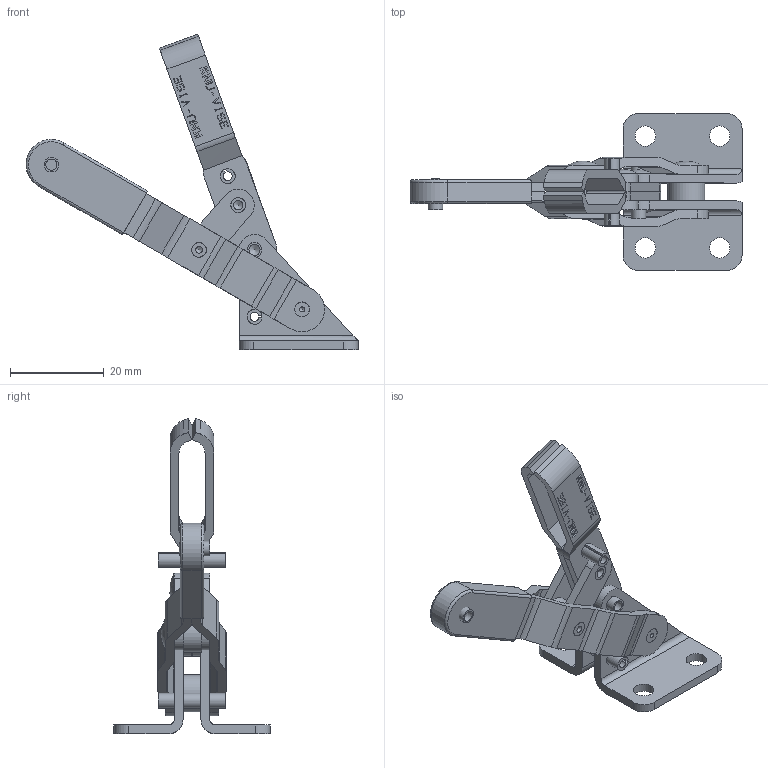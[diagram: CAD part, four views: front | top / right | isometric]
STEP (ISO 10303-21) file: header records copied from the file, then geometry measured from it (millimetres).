
FILE_DESCRIPTION(/* description */ (''),/* implementation_level */ '2;1');
FILE_NAME(/* name */ 'C:\Users\Nick\Desktop\v-120\3D\V-120 Open.stp',/* time_stamp */ '2015-10-02T16:55:27-04:00',/* author */ ('Nick'),/* organization */ (''),/* preprocessor_version */ 'ST-DEVELOPER v16.1',/* originating_system */ 'AutoCAD Mechanical',/* authorisation */ '');
FILE_SCHEMA (('AUTOMOTIVE_DESIGN { 1 0 10303 214 3 1 1 }'));
Length unit declared in the file: inch
Products named in the file (1): Product
Bounding box: 70.88 x 33.43 x 67.39 mm (x, y, z)
Volume: 8365.6 mm3; surface area: 12895.6 mm2
Topology: 18 solids, 18 shells, 644 faces, 1703 edges, 1138 vertices
Faces by surface type: plane 518, cylinder 109, torus 7, sphere 5, cone 5
Full cylindrical faces by diameter (mm): 2.381 x2, 3.124 x5, 3.2 x22, 3.277 x2, 4.369 x4, 7.938 x2
Entity records: 19473 total; most frequent: CARTESIAN_POINT 3427, ORIENTED_EDGE 3272, DIRECTION 3154, EDGE_CURVE 1636, LINE 1392, VECTOR 1392, VERTEX_POINT 1118, AXIS2_PLACEMENT_3D 881
